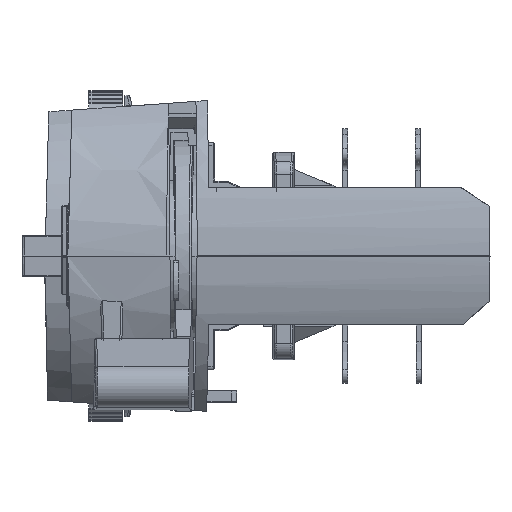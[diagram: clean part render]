
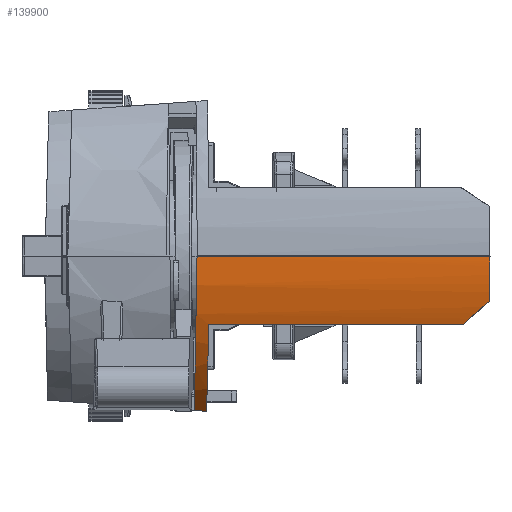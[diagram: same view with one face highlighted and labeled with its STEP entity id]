
A CAD part, left-side view. The second image highlights one B-rep face of the part: STEP entity #139900.
In plain terms, the highlighted cylindrical face has radius 20 mm (diameter 40 mm), a partial arc.
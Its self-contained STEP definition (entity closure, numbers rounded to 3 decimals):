
#92720=CARTESIAN_POINT('',(-123.39,-18.33,
-6.85));
#92730=VERTEX_POINT('',#92720);
#92760=CARTESIAN_POINT('',(-104.6,-25.895,0.));
#92770=DIRECTION('',(0.,0.671,0.741));
#92780=DIRECTION('',(0.,0.741,-0.671));
#92790=AXIS2_PLACEMENT_3D('',#92760,#92770,#92780);
#92800=ELLIPSE('',#92790,29.797,20.);
#92810=CARTESIAN_POINT('',(-124.084,-20.911,
-4.513));
#92820=VERTEX_POINT('',#92810);
#92830=EDGE_CURVE('',#92730,#92820,#92800,.T.);
#99120=CARTESIAN_POINT('',(-123.39,7.147,
-6.85));
#99130=VERTEX_POINT('',#99120);
#99160=CARTESIAN_POINT('',(-123.39,-18.33,
-6.85));
#99170=DIRECTION('',(0.,1.,0.));
#99180=VECTOR('',#99170,1.);
#99190=LINE('',#99160,#99180);
#99200=EDGE_CURVE('',#92730,#99130,#99190,.T.);
#101990=CARTESIAN_POINT('',(-117.179,7.375,
-15.549));
#102000=VERTEX_POINT('',#101990);
#102030=CARTESIAN_POINT('',(-117.179,7.375,
-15.549));
#102040=CARTESIAN_POINT('',(-117.884,7.36,
-14.979));
#102050=CARTESIAN_POINT('',(-119.203,7.328,
-13.754));
#102060=CARTESIAN_POINT('',(-120.927,7.273,
-11.658));
#102070=CARTESIAN_POINT('',(-122.35,7.213,
-9.347));
#102080=CARTESIAN_POINT('',(-123.08,7.17,
-7.702));
#102090=CARTESIAN_POINT('',(-123.39,7.147,
-6.85));
#102100=B_SPLINE_CURVE_WITH_KNOTS('',3,(#102030,#102040,#102050,#102060,
#102070,#102080,#102090),.UNSPECIFIED.,.F.,.F.,(4,1,1,1,4),(0.,0.25,0.5,
0.75,1.),.UNSPECIFIED.);
#102110=EDGE_CURVE('',#102000,#99130,#102100,.T.);
#139080=CARTESIAN_POINT('',(-104.6,-20.95,0.));
#139090=DIRECTION('',(0.,-1.,-0.009));
#139100=DIRECTION('',(0.,0.009,-1.));
#139110=AXIS2_PLACEMENT_3D('',#139080,#139090,#139100);
#139120=ELLIPSE('',#139110,20.001,20.);
#139130=CARTESIAN_POINT('',(-124.575,-20.941,
-1.));
#139140=VERTEX_POINT('',#139130);
#139150=EDGE_CURVE('',#139140,#92820,#139120,.T.);
#139440=CARTESIAN_POINT('',(-104.6,14.8,0.));
#139450=DIRECTION('',(0.,-1.,0.));
#139460=DIRECTION('',(1.,0.,0.));
#139470=AXIS2_PLACEMENT_3D('',#139440,#139450,#139460);
#139480=CYLINDRICAL_SURFACE('',#139470,20.);
#139490=CARTESIAN_POINT('',(-124.6,8.328,0.));
#139500=DIRECTION('',(0.,-1.,0.));
#139510=VECTOR('',#139500,1.);
#139520=LINE('',#139490,#139510);
#139530=CARTESIAN_POINT('',(-124.6,8.328,0.))
;
#139540=VERTEX_POINT('',#139530);
#139550=CARTESIAN_POINT('',(-124.6,-21.,0.))
;
#139560=VERTEX_POINT('',#139550);
#139570=EDGE_CURVE('',#139540,#139560,#139520,.T.);
#139580=ORIENTED_EDGE('',*,*,#139570,.F.);
#139590=CARTESIAN_POINT('',(-104.6,-21.,0.));
#139600=DIRECTION('',(0.,-0.998,-0.059));
#139610=DIRECTION('',(0.,0.059,-0.998));
#139620=AXIS2_PLACEMENT_3D('',#139590,#139600,#139610);
#139630=ELLIPSE('',#139620,20.034,20.);
#139640=EDGE_CURVE('',#139560,#139140,#139630,.T.);
#139650=ORIENTED_EDGE('',*,*,#139640,.F.);
#139660=ORIENTED_EDGE('',*,*,#139150,.F.);
#139670=ORIENTED_EDGE('',*,*,#92830,.T.);
#139680=ORIENTED_EDGE('',*,*,#99200,.F.);
#139690=ORIENTED_EDGE('',*,*,#102110,.T.);
#139700=CARTESIAN_POINT('',(-117.179,7.375,
-15.549));
#139710=CARTESIAN_POINT('',(-117.19,7.511,
-15.54));
#139720=CARTESIAN_POINT('',(-117.214,7.783,
-15.521));
#139730=CARTESIAN_POINT('',(-117.249,8.19,
-15.492));
#139740=CARTESIAN_POINT('',(-117.272,8.462,
-15.473));
#139750=CARTESIAN_POINT('',(-117.284,8.598,
-15.464));
#139760=B_SPLINE_CURVE_WITH_KNOTS('',3,(#139700,#139710,#139720,#139730,
#139740,#139750),.UNSPECIFIED.,.F.,.F.,(4,1,1,4),(0.,0.333,
0.667,1.),.UNSPECIFIED.);
#139770=CARTESIAN_POINT('',(-117.284,8.598,
-15.464));
#139780=VERTEX_POINT('',#139770);
#139790=EDGE_CURVE('',#102000,#139780,#139760,.T.);
#139800=ORIENTED_EDGE('',*,*,#139790,.F.);
#139810=CARTESIAN_POINT('',(-104.6,8.328,0.))
;
#139820=DIRECTION('',(0.,-1.,-0.017));
#139830=DIRECTION('',(0.,-0.017,1.));
#139840=AXIS2_PLACEMENT_3D('',#139810,#139820,#139830);
#139850=ELLIPSE('',#139840,20.003,20.);
#139860=EDGE_CURVE('',#139540,#139780,#139850,.T.);
#139870=ORIENTED_EDGE('',*,*,#139860,.T.);
#139880=EDGE_LOOP('',(#139870,#139800,#139690,#139680,#139670,#139660,
#139650,#139580));
#139890=FACE_OUTER_BOUND('',#139880,.T.);
#139900=ADVANCED_FACE('',(#139890),#139480,.T.);
